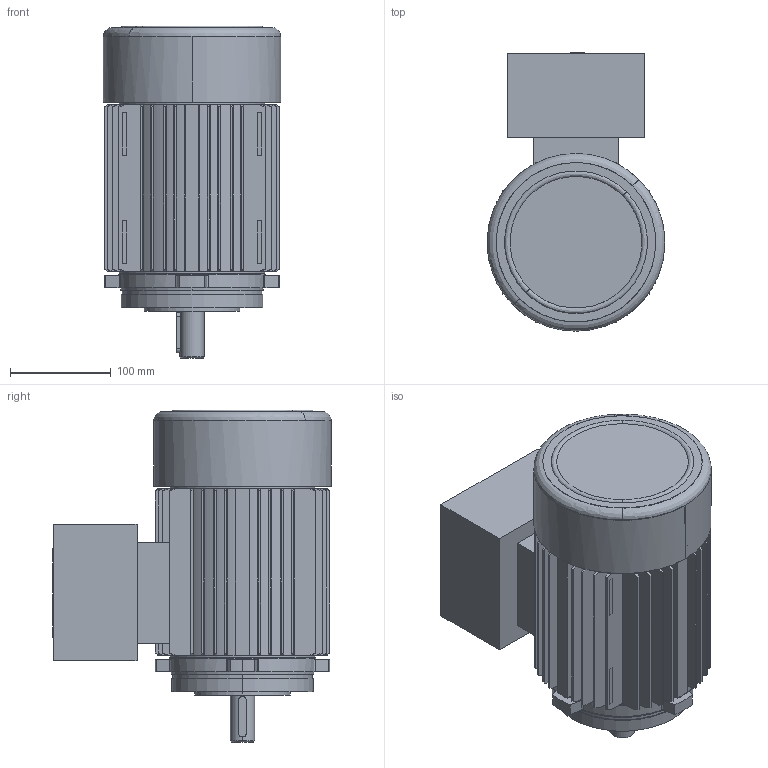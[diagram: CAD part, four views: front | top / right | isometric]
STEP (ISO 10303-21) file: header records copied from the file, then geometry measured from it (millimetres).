
FILE_DESCRIPTION (( 'STEP AP214' ), '1' );
FILE_NAME ('20.17499-C 5AT 90 B14_small Exde STANDK.STEP', '2018-05-08T06:02:49', ( '' ), ( '' ), 'SwSTEP 2.0', 'SolidWorks 2017', '' );
FILE_SCHEMA (( 'AUTOMOTIVE_DESIGN' ));
Length unit declared in the file: millimetre
Products named in the file (1): 20.17499-C 5AT 90 B14_small Exde STANDK
Bounding box: 176 x 276 x 329 mm (x, y, z)
Volume: 3714478.8 mm3; surface area: 678927 mm2
Topology: 4 solids, 4 shells, 682 faces, 1777 edges, 1153 vertices
Faces by surface type: plane 309, cylinder 212, cone 153, bspline 8
Entity records: 27484 total; most frequent: CARTESIAN_POINT 5040, ORIENTED_EDGE 3506, DIRECTION 3475, EDGE_CURVE 1753, AXIS2_PLACEMENT_3D 1284, VERTEX_POINT 1153, VECTOR 907, LINE 907
